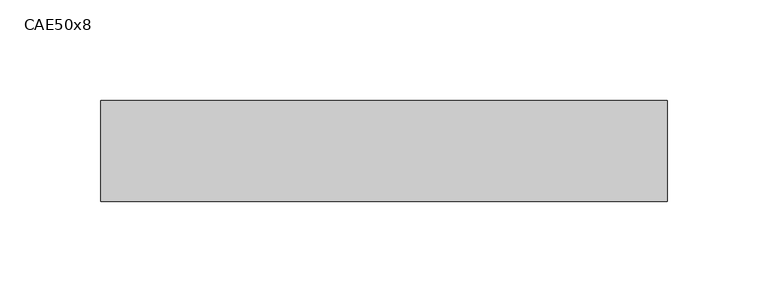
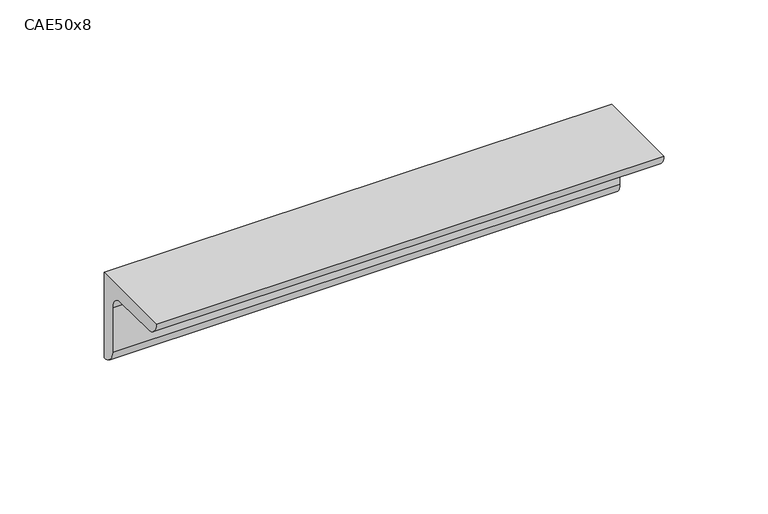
"""IFC4 building model written with IfcOpenShell, lengths in millimetres: beam geometry, L-Cornières : CAE50x8."""

from ifc_helpers import new_model, si_unit, point, frame, frame_2d, origin, place, context, project, spatial, polyline, circle_curve, trimmed, segment, composite_curve, outline, extrude, source, transform, mapped, element, save


def cae50x8_e4359463(model_context):
    return source(origin(), model_context, "Body", "SweptSolid", [
        extrude(outline(composite_curve([segment(polyline([(15.2, 15.2), (15.2, -34.8)]), True, "CONTINUOUS"), segment(trimmed(circle_curve(frame_2d((15.2, -26.8)), 8.0), [point((15.2, -34.8))], [point((7.2, -26.8))], False, "CARTESIAN"), True, "CONTINUOUS"), segment(polyline([(7.2, -26.8), (7.2, -0.8)]), True, "CONTINUOUS"), segment(trimmed(circle_curve(frame_2d((-0.8, -0.8)), 8.0), [point((7.2, -0.8))], [point((-0.8, 7.2))], True, "CARTESIAN"), True, "CONTINUOUS"), segment(polyline([(-0.8, 7.2), (-26.8, 7.2)]), True, "CONTINUOUS"), segment(trimmed(circle_curve(frame_2d((-26.8, 15.2)), 8.0), [point((-26.8, 7.2))], [point((-34.8, 15.2))], False, "CARTESIAN"), True, "CONTINUOUS"), segment(polyline([(-34.8, 15.2), (15.2, 15.2)]), True, "CONTINUOUS")], self_intersect=False)), frame((-142.0, 0.0, 0.0), z_axis=(1.0, 0.0, 0.0), x_axis=(0.0, 1.0, 0.0)), (0.0, 0.0, 1.0), 281.0),
    ])


if __name__ == "__main__":
    model = new_model("IFC4")
    model_context = context("Model", 3, world=origin())
    ifc_project = project(units=[si_unit("LENGTHUNIT", "METRE", prefix="MILLI")], contexts=[model_context])
    site = spatial("IfcSite", under=ifc_project)
    building = spatial("IfcBuilding", under=site)
    placement = place(None, origin())
    cae50x8_shape = cae50x8_e4359463(model_context)
    element("IfcBeam", 1, ObjectType="L-Cornières : CAE50x8", at=placement, inside=building, context=model_context, shape_type="MappedRepresentation", body=[
        mapped(cae50x8_shape, transform((0.0, 0.0, 0.0), x_axis=(1.0, 0.0, 0.0), y_axis=(0.0, 1.0, 0.0), z_axis=(0.0, 0.0, 1.0))),
    ])
    save(model, "model.ifc")
